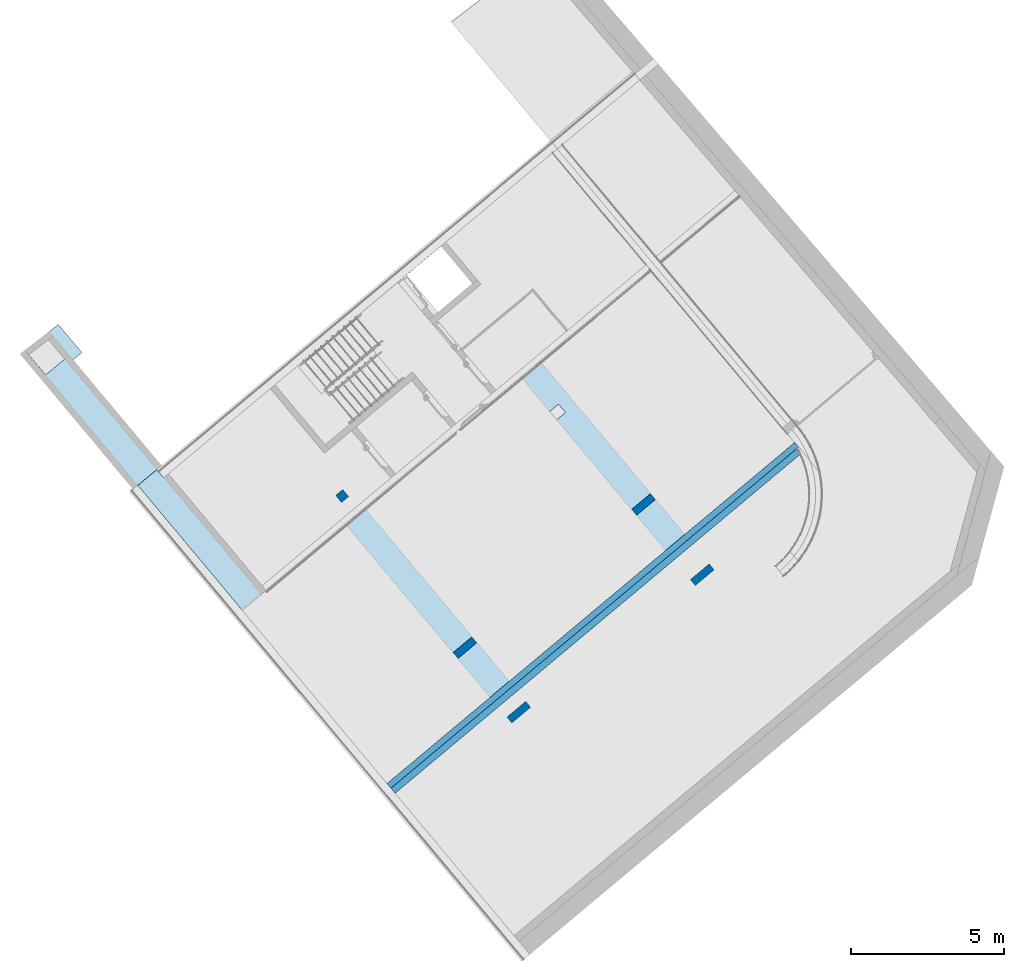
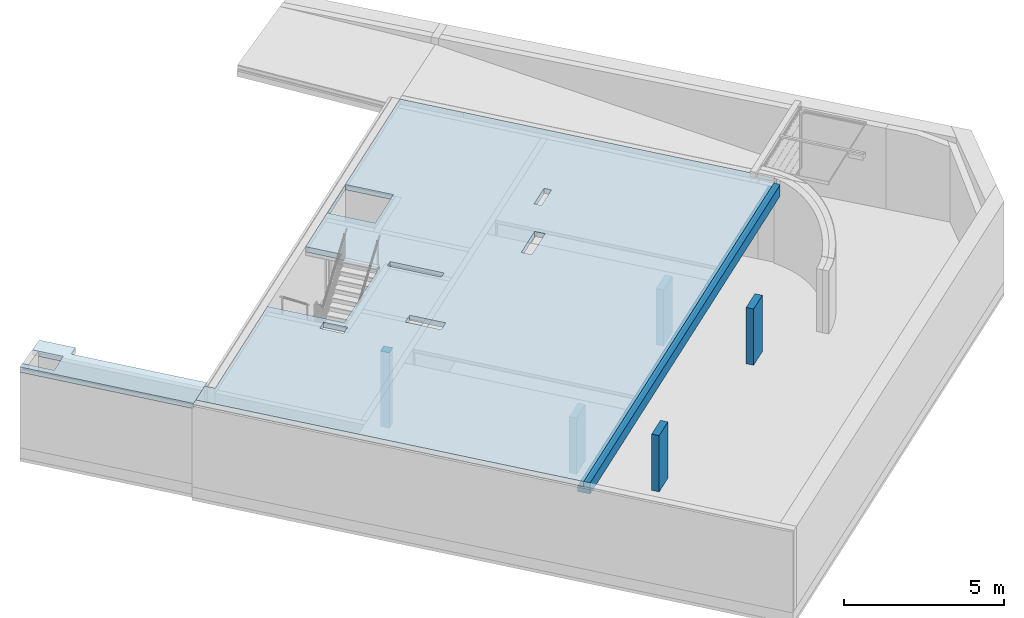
# One storey, part 3 of 17: 5 columns, 2 slabs, 1 beam.
"""IFC4 building model written with IfcOpenShell, lengths in metres."""

from ifc_helpers import new_model, entity, si_unit, converted_unit, derived_unit, direction, frame, origin_with_axes, place, context, subcontext, project, spatial, polygons, material, type_object, element, save


model = new_model("IFC4")

# Units and contexts
model_context = context("Model", 3, precision=1e-05, world=origin_with_axes(), true_north=direction((0.0, 1.0)))
body_context = subcontext(model_context, "Body", "Model", "MODEL_VIEW")
ifc_project = project(units=[si_unit("LENGTHUNIT", "METRE"), si_unit("AREAUNIT", "SQUARE_METRE"), si_unit("VOLUMEUNIT", "CUBIC_METRE"), converted_unit("PLANEANGLEUNIT", "DEGREE", entity("IfcPlaneAngleMeasure", 0.0174532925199), si_unit("PLANEANGLEUNIT", "RADIAN"), dimensions=[0, 0, 0, 0, 0, 0, 0]), converted_unit("TIMEUNIT", "Year", entity("IfcTimeMeasure", 31556926.0), si_unit("TIMEUNIT", "SECOND"), dimensions=[0, 0, 1, 0, 0, 0, 0]), si_unit("MASSUNIT", "GRAM", prefix="KILO"), si_unit("THERMODYNAMICTEMPERATUREUNIT", "DEGREE_CELSIUS"), si_unit("LUMINOUSINTENSITYUNIT", "LUMEN"), si_unit("ENERGYUNIT", "JOULE", prefix="MEGA"), derived_unit("THERMALCONDUCTANCEUNIT", [(si_unit("POWERUNIT", "WATT"), 1), (si_unit("LENGTHUNIT", "METRE"), -1), (si_unit("THERMODYNAMICTEMPERATUREUNIT", "KELVIN"), -1)]), derived_unit("SPECIFICHEATCAPACITYUNIT", [(si_unit("ENERGYUNIT", "JOULE"), 1), (si_unit("MASSUNIT", "GRAM", prefix="KILO"), -1), (si_unit("THERMODYNAMICTEMPERATUREUNIT", "KELVIN"), -1)]), derived_unit("MASSDENSITYUNIT", [(si_unit("MASSUNIT", "GRAM", prefix="KILO"), 1), (si_unit("VOLUMEUNIT", "CUBIC_METRE"), -1)])], contexts=[model_context])

# Site, building, storey
site_placement = place(None, frame((-0.00153261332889, -0.00661245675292, 0.0), z_axis=(0.0, 0.0, 1.0), x_axis=(1.0, 0.0, 0.0)))
site = spatial("IfcSite", under=ifc_project, at=site_placement, Name="Site", CompositionType="ELEMENT")
building_placement = place(site_placement, origin_with_axes())
building = spatial("IfcBuilding", under=site, at=building_placement, Name="Building", CompositionType="ELEMENT")
storey_placement = place(building_placement, frame((0.0, 0.0, -3.3), z_axis=(0.0, 0.0, 1.0), x_axis=(1.0, 0.0, 0.0)))
storey = spatial("IfcBuildingStorey", under=building, at=storey_placement, Name="UG1", CompositionType="ELEMENT", Elevation=-3.3)

# Columns
ifc_material_1 = material(Name="Stahlbeton")
column_type_1 = type_object("IfcColumnType", Name="Stahlbeton 300 x 300", PredefinedType="NOTDEFINED")
column_1_placement = place(storey_placement, frame((-1.63477953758, 18.8877031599, 0.0), z_axis=(0.0, 0.0, 1.0), x_axis=(-0.76736585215, -0.641209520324, 0.0)))
element("IfcColumn", 1, at=column_1_placement, inside=storey, type_object=column_type_1, material=ifc_material_1, Name="Stütze-002", PredefinedType="NOTDEFINED", context=body_context, shape_type="Tessellation", body=[
    polygons([(0.15, -0.15, 2.88), (-0.15, -0.15, 2.88), (-0.15, -0.15, 0.0), (0.15, -0.15, 0.0), (0.15, 0.15, 2.88), (-0.15, 0.15, 2.88), (-0.15, 0.15, 0.0), (0.15, 0.15, 0.0)], [[[1, 2, 3, 4]], [[5, 6, 2, 1]], [[2, 6, 7, 3]], [[8, 4, 3, 7]], [[5, 1, 4, 8]], [[6, 5, 8, 7]]], closed=True),
])
ifc_material_2 = material(Name="Stahlbeton Wand")
column_type_2 = type_object("IfcColumnType", Name="Stahlbeton Wand 250", PredefinedType="NOTDEFINED")
for number, where, z_axis, x_axis, name in (
    (2, (8.00827800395, 18.2584005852, 0.0), (0.0, 0.0, 1.0), (0.767365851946, 0.641209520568, 0.0), "Wand-005"),
    (3, (9.93088709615, 15.9575230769, 0.0), (0.0, 0.0, 1.0), (0.767365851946, 0.641209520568, 0.0), "Wand-004"),
):
    element("IfcColumn", number, at=place(storey_placement, frame(where, z_axis=z_axis, x_axis=x_axis)), inside=storey, type_object=column_type_2, material=ifc_material_2, Name=name, PredefinedType="NOTDEFINED", context=body_context, shape_type="Tessellation", body=[
        polygons([(0.0, 0.25, 0.0), (0.800458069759, 0.25, 0.0), (0.800458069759, 0.0, 0.0), (0.0, 0.0, 0.0), (0.0, 0.25, 2.15), (0.800458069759, 0.25, 2.15), (0.800458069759, 0.0, 2.15), (0.0, 0.0, 2.15)], [[[1, 2, 3, 4]], [[5, 6, 2, 1]], [[3, 2, 6, 7]], [[4, 3, 7, 8]], [[5, 1, 4, 8]], [[8, 7, 6, 5]]], closed=True),
    ])
column_2_placement = place(storey_placement, frame((2.16021716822, 13.5678961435, 0.0), z_axis=(0.0, 0.0, 1.0), x_axis=(0.767365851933, 0.641209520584, 0.0)))
element("IfcColumn", 4, at=column_2_placement, inside=storey, type_object=column_type_2, material=ifc_material_2, Name="Wand-003", PredefinedType="NOTDEFINED", context=body_context, shape_type="Tessellation", body=[
    polygons([(0.0, 0.25, 0.0), (0.798804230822, 0.25, 0.0), (0.798804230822, 0.0, 0.0), (0.0, 0.0, 0.0), (0.0, 0.25, 2.1499999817), (0.798804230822, 0.25, 2.1499999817), (0.798804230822, 0.0, 2.1499999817), (0.0, 0.0, 2.1499999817)], [[[1, 2, 3, 4]], [[5, 6, 2, 1]], [[3, 2, 6, 7]], [[4, 3, 7, 8]], [[5, 1, 4, 8]], [[8, 7, 6, 5]]], closed=True),
])
column_3_placement = place(storey_placement, frame((3.92375766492, 11.4573835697, 0.0), z_axis=(0.0, 0.0, 1.0), x_axis=(0.767365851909, 0.641209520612, 0.0)))
element("IfcColumn", 5, at=column_3_placement, inside=storey, type_object=column_type_2, material=ifc_material_2, Name="Wand-002", PredefinedType="NOTDEFINED", context=body_context, shape_type="Tessellation", body=[
    polygons([(0.0, 0.25, 0.0), (0.798804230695, 0.25, 0.0), (0.798804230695, 0.0, 0.0), (0.0, 0.0, 0.0), (0.0, 0.25, 2.15), (0.798804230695, 0.25, 2.15), (0.798804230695, 0.0, 2.15), (0.0, 0.0, 2.15)], [[[1, 2, 3, 4]], [[5, 6, 2, 1]], [[3, 2, 6, 7]], [[4, 3, 7, 8]], [[5, 1, 4, 8]], [[8, 7, 6, 5]]], closed=True),
])

# Beam
beam_type = type_object("IfcBeamType", Name="Stahlbeton 415 x 430", PredefinedType="NOTDEFINED")
beam_placement = place(storey_placement, frame((-0.2237607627, 9.15217050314, 3.08000081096), z_axis=(0.0, 0.0, 1.0), x_axis=(0.641708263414, -0.766948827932, 0.0)))
element("IfcBeam", 6, at=beam_placement, inside=storey, type_object=beam_type, material=ifc_material_1, Name="Träger-001", PredefinedType="NOTDEFINED", context=body_context, shape_type="Tessellation", body=[
    polygons([(-0.0492401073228, 17.6582797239, -0.43), (-0.0492401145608, 17.6582797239, -0.20000081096), (-0.00720813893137, 17.6582797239, -0.20000081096), (-0.00720813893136, 17.6582797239, -8.10960177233e-07), (-0.0068952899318, 17.6582797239, 0.0), (-0.00689529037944, 17.6582797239, -0.43), (-0.2075, 17.6577492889, -0.43), (-0.2075, 17.657749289, -0.20000081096), (-0.00752762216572, 0.25000494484, -0.20000081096), (-0.2075, 16.8821398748, -0.20000081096), (-0.207245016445, 12.9561243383, -0.20000081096), (-0.2075, 12.9561245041, -0.20000081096), (-0.2075, 0.250134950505, -0.20000081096), (-0.00752762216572, 0.25000494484, -8.10960177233e-07), (0.2075, 0.249865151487, -8.10960177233e-07), (0.2075, 17.5557159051, 0.0), (0.136256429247, 17.5746731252, 0.0), (-0.00689525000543, 17.6041304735, 0.0), (-0.00689525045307, 17.6041304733, -0.43), (0.136256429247, 17.5746731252, -0.43), (0.2075, 17.5557159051, -0.43), (0.2075, 0.249865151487, -0.43), (-0.2075, 0.250134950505, -0.43), (-0.2075, 16.8821398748, -0.32000081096), (-0.2075, 12.9561245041, -0.32000081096), (-0.207245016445, 12.9561243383, -0.32000081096)], [[[1, 2, 3, 4, 5, 6]], [[7, 8, 2, 1]], [[9, 3, 2, 8, 10, 11, 12, 13]], [[9, 14, 4, 3]], [[5, 4, 14, 15, 16, 17, 18]], [[19, 6, 5, 18]], [[1, 6, 19, 20, 21, 22, 23, 7]], [[24, 10, 8, 7, 23, 13, 12, 25]], [[26, 11, 10, 24]], [[25, 12, 11, 26]], [[14, 9, 13, 23, 22, 15]], [[16, 15, 22, 21]], [[16, 21, 20, 17]], [[20, 19, 18, 17]], [[25, 26, 24]]], closed=True),
])

# Slabs
ifc_material_3 = material(Name="Stahlbeton Decke")
slab_type = type_object("IfcSlabType", Name="Stahlbeton Decke 200", PredefinedType="NOTDEFINED")
slab_1_placement = place(storey_placement, frame((-8.51395356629, 19.0734375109, 3.08), z_axis=(0.0, 0.0, 1.0), x_axis=(1.0, 0.0, 0.0)))
element("IfcSlab", 7, at=slab_1_placement, inside=storey, type_object=slab_type, material=ifc_material_3, Name="Decke-005", PredefinedType="NOTDEFINED", context=body_context, shape_type="Tessellation", body=[
    polygons([(8.47710326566, -9.75506346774, -0.2), (21.943415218, 1.51181785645, -0.2), (21.943415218, 1.51181785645, 0.0), (8.47710326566, -9.75506346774, 0.0), (21.741745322, 1.81967592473, -0.2), (21.8486546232, 1.66606491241, -0.2), (0.191841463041, 0.160302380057, -0.2), (0.813788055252, 0.679999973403, -0.2), (1.03821138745, 0.411421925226, -0.2), (4.68289138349, 3.45690628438, -0.2), (6.32388414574, 1.49305239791, -0.2), (8.77184149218, 3.53856113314, -0.2), (7.89989841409, 4.58206954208, -0.2), (8.1154056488, 4.76212823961, -0.2), (7.34640143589, 5.6825277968, -0.2), (13.9258756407, 11.1803179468, -0.2), (15.2886586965, 9.5496424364, -0.2), (21.6202657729, 1.97199386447, -0.2), (21.6201061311, 1.97186047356, -0.2), (6.28903474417, 1.22284780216, -0.2), (5.77902880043, 1.83319610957, -0.2), (5.50617239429, 1.60519778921, -0.2), (6.01628626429, 0.99472032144, -0.2), (8.29737222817, 0.815713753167, -0.2), (7.9940574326, 0.562264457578, -0.2), (8.76343124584, -0.358481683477, -0.2), (9.06674604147, -0.105032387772, -0.2), (10.1198161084, 7.99498176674, -0.2), (8.85386013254, 6.93715123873, -0.2), (9.87674183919, 5.71183902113, -0.2), (11.1432789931, 6.77015518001, -0.2), (9.22699471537, 3.65831940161, -0.2), (9.03855095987, 3.5007912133, -0.2), (10.1935232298, 2.11858110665, -0.2), (10.381417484, 2.27543386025, -0.2), (14.1913965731, 2.55213565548, -0.2), (13.9666052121, 2.8211541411, -0.2), (13.02874317, 2.03747831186, -0.2), (13.2529145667, 1.76894290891, -0.2), (15.3941765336, 4.7091117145, -0.2), (14.7058685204, 4.13396278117, -0.2), (14.8650352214, 3.94348043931, -0.2), (15.5528871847, 4.51824829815, -0.2), (21.8486546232, 1.66606491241, 0.0), (21.741745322, 1.81967592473, 0.0), (21.6201061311, 1.97186047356, 0.0), (21.6202657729, 1.97199386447, 0.0), (15.2886586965, 9.5496424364, 0.0), (13.9258756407, 11.1803179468, 0.0), (7.34640143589, 5.6825277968, 0.0), (8.1154056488, 4.76212823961, 0.0), (7.89989841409, 4.58206954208, 0.0), (8.77184149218, 3.53856113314, 0.0), (6.32388414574, 1.49305239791, 0.0), (4.68289138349, 3.45690628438, 0.0), (1.03821138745, 0.411421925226, 0.0), (0.813788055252, 0.679999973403, 0.0), (0.191841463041, 0.160302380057, 0.0), (6.28903474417, 1.22284780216, 0.0), (6.01628626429, 0.99472032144, 0.0), (5.50617239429, 1.60519778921, 0.0), (5.77902880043, 1.83319610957, 0.0), (8.29737222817, 0.815713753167, 0.0), (9.06674604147, -0.105032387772, 0.0), (8.76343124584, -0.358481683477, 0.0), (7.9940574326, 0.562264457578, 0.0), (10.1198161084, 7.99498176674, 0.0), (11.1432789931, 6.77015518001, 0.0), (9.87674183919, 5.71183902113, 0.0), (8.85386013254, 6.93715123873, 0.0), (9.22699471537, 3.65831940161, 0.0), (10.381417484, 2.27543386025, 0.0), (10.1935232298, 2.11858110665, 0.0), (9.03855095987, 3.5007912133, 0.0), (14.1913965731, 2.55213565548, 0.0), (13.2529145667, 1.76894290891, 0.0), (13.02874317, 2.03747831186, 0.0), (13.9666052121, 2.8211541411, 0.0), (15.3941765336, 4.7091117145, 0.0), (15.5528871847, 4.51824829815, 0.0), (14.8650352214, 3.94348043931, 0.0), (14.7058685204, 4.13396278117, 0.0)], [[[1, 2, 3, 4]], [[5, 6, 2, 1, 7, 8, 9, 10, 11, 12, 13, 14, 15, 16, 17, 18, 19], [20, 21, 22, 23], [24, 25, 26, 27], [28, 29, 30, 31], [32, 33, 34, 35], [36, 37, 38, 39], [40, 41, 42, 43]], [[6, 44, 3, 2]], [[45, 46, 47, 48, 49, 50, 51, 52, 53, 54, 55, 56, 57, 58, 4, 3, 44], [59, 60, 61, 62], [63, 64, 65, 66], [67, 68, 69, 70], [71, 72, 73, 74], [75, 76, 77, 78], [79, 80, 81, 82]], [[7, 1, 4, 58]], [[5, 45, 44, 6]], [[8, 7, 58, 57]], [[57, 56, 9, 8]], [[9, 56, 55, 10]], [[11, 10, 55, 54]], [[54, 53, 12, 11]], [[53, 52, 13, 12]], [[52, 51, 14, 13]], [[51, 50, 15, 14]], [[15, 50, 49, 16]], [[49, 48, 17, 16]], [[48, 47, 18, 17]], [[19, 18, 47, 46]], [[19, 46, 45, 5]], [[59, 62, 21, 20]], [[62, 61, 22, 21]], [[61, 60, 23, 22]], [[60, 59, 20, 23]], [[63, 66, 25, 24]], [[66, 65, 26, 25]], [[65, 64, 27, 26]], [[64, 63, 24, 27]], [[67, 70, 29, 28]], [[70, 69, 30, 29]], [[69, 68, 31, 30]], [[68, 67, 28, 31]], [[71, 74, 33, 32]], [[74, 73, 34, 33]], [[73, 72, 35, 34]], [[72, 71, 32, 35]], [[75, 78, 37, 36]], [[78, 77, 38, 37]], [[77, 76, 39, 38]], [[76, 75, 36, 39]], [[79, 82, 41, 40]], [[82, 81, 42, 41]], [[81, 80, 43, 42]], [[80, 79, 40, 43]]], closed=True),
])
slab_2_placement = place(storey_placement, frame((-12.0195879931, 23.6664224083, 3.08), z_axis=(0.0, 0.0, 1.0), x_axis=(1.0, 0.0, 0.0)))
element("IfcSlab", 8, at=slab_2_placement, inside=storey, type_object=slab_type, material=ifc_material_3, Name="Decke-005", PredefinedType="NOTDEFINED", context=body_context, shape_type="Tessellation", body=[
    polygons([(0.0, 0.0, 0.0), (0.0, 0.0, -0.2), (-0.162612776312, -0.125041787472, -0.2), (-0.162612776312, -0.125041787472, 0.0), (0.678979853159, -0.812567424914, 0.0), (0.678979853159, -0.812567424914, -0.2), (1.29711925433, -0.29605125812, -0.2), (0.639096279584, 0.4914360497, -0.2), (1.09431297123, 0.84147702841, -0.2), (1.86540376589, -0.0818255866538, -0.2), (1.57883429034, -0.321282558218, -0.2), (4.47289572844, -3.7847431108, -0.2), (3.54400273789, -4.56092442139, -0.2), (3.54400273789, -4.56092442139, 0.0), (4.47289572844, -3.7847431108, 0.0), (1.57883429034, -0.321282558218, 0.0), (1.86540376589, -0.0818255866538, 0.0), (1.09431297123, 0.84147702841, 0.0), (0.639096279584, 0.4914360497, 0.0), (1.29711925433, -0.29605125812, 0.0)], [[[1, 2, 3, 4]], [[5, 6, 2, 1]], [[3, 2, 6, 7, 8, 9, 10, 11, 12, 13]], [[4, 3, 13, 14]], [[5, 1, 4, 14, 15, 16, 17, 18, 19, 20]], [[20, 7, 6, 5]], [[19, 8, 7, 20]], [[18, 9, 8, 19]], [[17, 10, 9, 18]], [[16, 11, 10, 17]], [[15, 12, 11, 16]], [[14, 13, 12, 15]]], closed=True),
])

save(model, "model.ifc")
